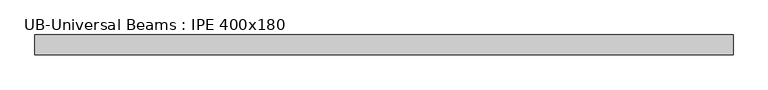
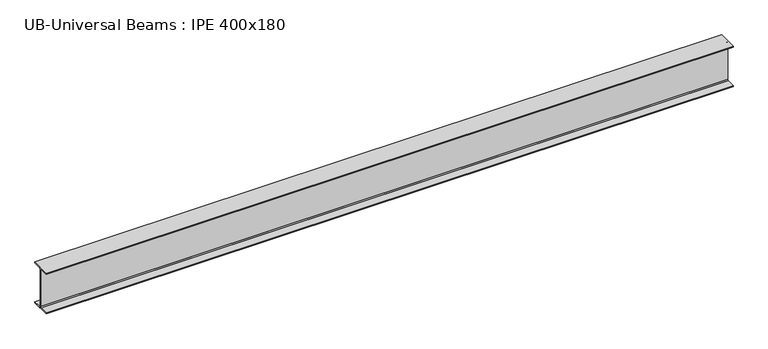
"""IFC4 building model written with IfcOpenShell, lengths in millimetres: beam geometry, UB-Universal Beams : IPE 400x180."""

from ifc_helpers import new_model, si_unit, point, frame, frame_2d, origin, place, context, project, spatial, polyline, circle_curve, trimmed, segment, composite_curve, outline, extrude, source, transform, mapped, element, save


def ub_universal_beams_ipe_400x180_9dca1a58(model_context):
    return source(origin(), model_context, "Body", "SweptSolid", [
        extrude(outline(composite_curve([segment(polyline([(90.0, -189.8), (90.0, -200.0), (-90.0, -200.0), (-90.0, -189.8), (-11.9, -189.8)]), True, "CONTINUOUS"), segment(trimmed(circle_curve(frame_2d((-11.9, -180.9)), 8.9), [point((-11.9, -189.8))], [point((-3.0, -180.9))], True, "CARTESIAN"), True, "CONTINUOUS"), segment(polyline([(-3.0, -180.9), (-3.0, 180.9)]), True, "CONTINUOUS"), segment(trimmed(circle_curve(frame_2d((-11.9, 180.9)), 8.9), [point((-3.0, 180.9))], [point((-11.9, 189.8))], True, "CARTESIAN"), True, "CONTINUOUS"), segment(polyline([(-11.9, 189.8), (-90.0, 189.8), (-90.0, 200.0), (90.0, 200.0), (90.0, 189.8), (11.9, 189.8)]), True, "CONTINUOUS"), segment(trimmed(circle_curve(frame_2d((11.9, 180.9)), 8.9), [point((11.9, 189.8))], [point((3.0, 180.9))], True, "CARTESIAN"), True, "CONTINUOUS"), segment(polyline([(3.0, 180.9), (3.0, -180.9)]), True, "CONTINUOUS"), segment(trimmed(circle_curve(frame_2d((11.9, -180.9)), 8.9), [point((3.0, -180.9))], [point((11.9, -189.8))], True, "CARTESIAN"), True, "CONTINUOUS"), segment(polyline([(11.9, -189.8), (90.0, -189.8)]), True, "CONTINUOUS")], self_intersect=False)), frame((-3090.0, 0.0, 0.0), z_axis=(1.0, 0.0, 0.0), x_axis=(0.0, 1.0, 0.0)), (0.0, 0.0, 1.0), 6387.3071339),
    ])


if __name__ == "__main__":
    model = new_model("IFC4")
    model_context = context("Model", 3, world=origin())
    ifc_project = project(units=[si_unit("LENGTHUNIT", "METRE", prefix="MILLI")], contexts=[model_context])
    site = spatial("IfcSite", under=ifc_project)
    building = spatial("IfcBuilding", under=site)
    placement = place(None, origin())
    ub_universal_beams_ipe_400x180_shape = ub_universal_beams_ipe_400x180_9dca1a58(model_context)
    element("IfcBeam", 1, ObjectType="UB-Universal Beams : IPE 400x180", at=placement, inside=building, context=model_context, shape_type="MappedRepresentation", body=[
        mapped(ub_universal_beams_ipe_400x180_shape, transform((0.0, 0.0, 0.0), x_axis=(1.0, 0.0, 0.0), y_axis=(0.0, 1.0, 0.0), z_axis=(0.0, 0.0, 1.0))),
    ])
    save(model, "model.ifc")
